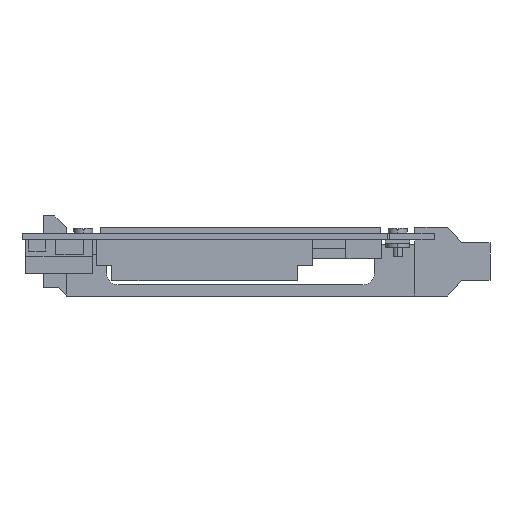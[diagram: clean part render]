
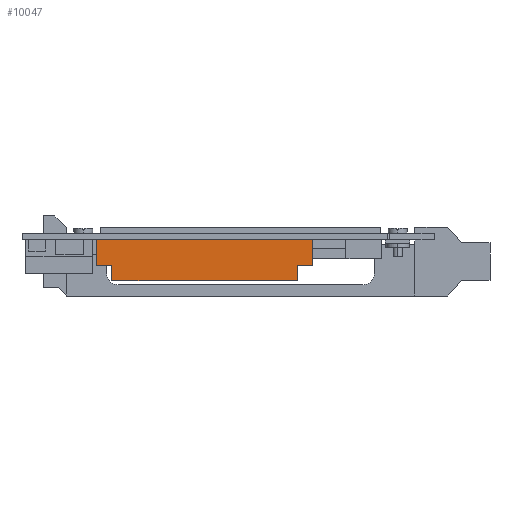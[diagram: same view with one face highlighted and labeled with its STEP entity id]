
A CAD part, left-side view. The second image highlights one B-rep face of the part: STEP entity #10047.
In plain terms, the highlighted planar face has unit normal (-1, 0, 0) as drawn and (0, 1, 0) by its records, which use the part's own axes.
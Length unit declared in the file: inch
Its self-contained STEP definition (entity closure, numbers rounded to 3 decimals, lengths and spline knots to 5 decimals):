
#131 = DIRECTION ( 'NONE',  ( 0., 0., -1. ) ) ;
#301 = DIRECTION ( 'NONE',  ( -1., 0., 0. ) ) ;
#367 = DIRECTION ( 'NONE',  ( 0., 0., -1. ) ) ;
#570 = ORIENTED_EDGE ( 'NONE', *, *, #7547, .F. ) ;
#576 = EDGE_CURVE ( 'NONE', #4894, #6689, #2405, .T. ) ;
#621 = ORIENTED_EDGE ( 'NONE', *, *, #5261, .T. ) ;
#833 = DIRECTION ( 'NONE',  ( -1., 0., 0. ) ) ;
#836 = VECTOR ( 'NONE', #10252, 39.37008 ) ;
#1015 = VECTOR ( 'NONE', #7583, 39.37008 ) ;
#1660 = LINE ( 'NONE', #3306, #3879 ) ;
#1916 = CARTESIAN_POINT ( 'NONE',  ( -0.985, 0.13, 0.44 ) ) ;
#2128 = CARTESIAN_POINT ( 'NONE',  ( -1.15, 0.13, 0.28 ) ) ;
#2185 = VERTEX_POINT ( 'NONE', #6768 ) ;
#2392 = LINE ( 'NONE', #8441, #836 ) ;
#2405 = LINE ( 'NONE', #10151, #9850 ) ;
#2438 = EDGE_LOOP ( 'NONE', ( #4997, #570, #7955, #6500, #3440, #4696, #4604, #621 ) ) ;
#2774 = VECTOR ( 'NONE', #301, 39.37008 ) ;
#2921 = VECTOR ( 'NONE', #367, 39.37008 ) ;
#3306 = CARTESIAN_POINT ( 'NONE',  ( -1.15, 0.13, 0.28 ) ) ;
#3439 = VERTEX_POINT ( 'NONE', #8285 ) ;
#3440 = ORIENTED_EDGE ( 'NONE', *, *, #6347, .F. ) ;
#3879 = VECTOR ( 'NONE', #833, 39.37008 ) ;
#4200 = FACE_OUTER_BOUND ( 'NONE', #2438, .T. ) ;
#4496 = CARTESIAN_POINT ( 'NONE',  ( 0.985, 0.13, 0.44 ) ) ;
#4604 = ORIENTED_EDGE ( 'NONE', *, *, #7978, .F. ) ;
#4620 = LINE ( 'NONE', #9899, #2921 ) ;
#4696 = ORIENTED_EDGE ( 'NONE', *, *, #9008, .T. ) ;
#4894 = VERTEX_POINT ( 'NONE', #5583 ) ;
#4997 = ORIENTED_EDGE ( 'NONE', *, *, #7755, .T. ) ;
#5082 = VERTEX_POINT ( 'NONE', #10189 ) ;
#5261 = EDGE_CURVE ( 'NONE', #2185, #5082, #4620, .T. ) ;
#5355 = VERTEX_POINT ( 'NONE', #10068 ) ;
#5482 = VECTOR ( 'NONE', #5603, 39.37008 ) ;
#5583 = CARTESIAN_POINT ( 'NONE',  ( -0.985, 0.13, 0.28 ) ) ;
#5603 = DIRECTION ( 'NONE',  ( -1., 0., 0. ) ) ;
#5971 = CARTESIAN_POINT ( 'NONE',  ( -1.15, 0.13, 0. ) ) ;
#6085 = DIRECTION ( 'NONE',  ( -1., 0., 0. ) ) ;
#6347 = EDGE_CURVE ( 'NONE', #3439, #10366, #8932, .T. ) ;
#6500 = ORIENTED_EDGE ( 'NONE', *, *, #8385, .F. ) ;
#6631 = DIRECTION ( 'NONE',  ( 0., 0., -1. ) ) ;
#6689 = VERTEX_POINT ( 'NONE', #2128 ) ;
#6768 = CARTESIAN_POINT ( 'NONE',  ( 1.15, 0.13, 0.28 ) ) ;
#7119 = CARTESIAN_POINT ( 'NONE',  ( -0.985, 0.13, 0.44 ) ) ;
#7191 = VERTEX_POINT ( 'NONE', #5971 ) ;
#7547 = EDGE_CURVE ( 'NONE', #6689, #7191, #10168, .T. ) ;
#7583 = DIRECTION ( 'NONE',  ( 0., 0., -1. ) ) ;
#7640 = DIRECTION ( 'NONE',  ( 0., -1., 0. ) ) ;
#7692 = PLANE ( 'NONE',  #8749 ) ;
#7755 = EDGE_CURVE ( 'NONE', #5082, #7191, #9818, .T. ) ;
#7955 = ORIENTED_EDGE ( 'NONE', *, *, #576, .F. ) ;
#7978 = EDGE_CURVE ( 'NONE', #2185, #5355, #1660, .T. ) ;
#8285 = CARTESIAN_POINT ( 'NONE',  ( 0.985, 0.13, 0.44 ) ) ;
#8351 = CARTESIAN_POINT ( 'NONE',  ( -1.15, 0.13, 0. ) ) ;
#8385 = EDGE_CURVE ( 'NONE', #10366, #4894, #2392, .T. ) ;
#8441 = CARTESIAN_POINT ( 'NONE',  ( -0.985, 0.13, 0.44 ) ) ;
#8599 = LINE ( 'NONE', #4496, #10743 ) ;
#8633 = CARTESIAN_POINT ( 'NONE',  ( -1.15, 0.13, 0.28 ) ) ;
#8749 = AXIS2_PLACEMENT_3D ( 'NONE', #10278, #7640, #6631 ) ;
#8932 = LINE ( 'NONE', #1916, #2774 ) ;
#9008 = EDGE_CURVE ( 'NONE', #3439, #5355, #8599, .T. ) ;
#9818 = LINE ( 'NONE', #8351, #5482 ) ;
#9850 = VECTOR ( 'NONE', #6085, 39.37008 ) ;
#9899 = CARTESIAN_POINT ( 'NONE',  ( 1.15, 0.13, 0.28 ) ) ;
#10047 = ADVANCED_FACE ( 'NONE', ( #4200 ), #7692, .F. ) ;
#10068 = CARTESIAN_POINT ( 'NONE',  ( 0.985, 0.13, 0.28 ) ) ;
#10151 = CARTESIAN_POINT ( 'NONE',  ( -1.15, 0.13, 0.28 ) ) ;
#10168 = LINE ( 'NONE', #8633, #1015 ) ;
#10189 = CARTESIAN_POINT ( 'NONE',  ( 1.15, 0.13, 0. ) ) ;
#10252 = DIRECTION ( 'NONE',  ( 0., 0., -1. ) ) ;
#10278 = CARTESIAN_POINT ( 'NONE',  ( -1.15, 0.13, 0.28 ) ) ;
#10366 = VERTEX_POINT ( 'NONE', #7119 ) ;
#10743 = VECTOR ( 'NONE', #131, 39.37008 ) ;
